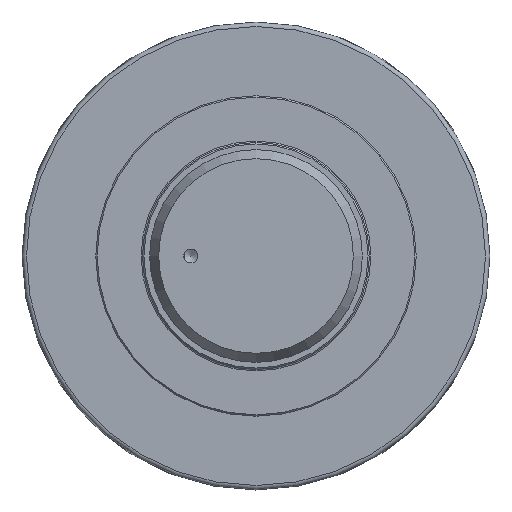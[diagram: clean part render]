
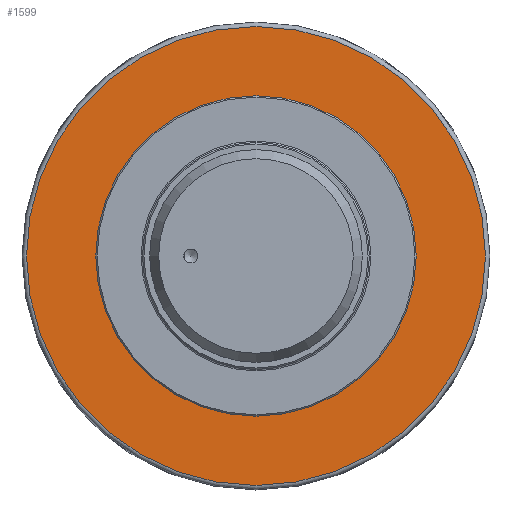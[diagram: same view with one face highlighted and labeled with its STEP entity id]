
A CAD part, left-side view. The second image highlights one B-rep face of the part: STEP entity #1599.
In plain terms, the highlighted planar face has unit normal (-1, 0, 0).
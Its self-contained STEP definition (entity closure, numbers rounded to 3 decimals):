
#66=FACE_BOUND('',#326,.T.);
#119=CIRCLE('',#1756,80.911);
#120=CIRCLE('',#1757,80.911);
#121=CIRCLE('',#1758,55.5);
#225=FACE_OUTER_BOUND('',#325,.T.);
#325=EDGE_LOOP('',(#1351,#1352));
#326=EDGE_LOOP('',(#1353));
#744=VERTEX_POINT('',#2668);
#745=VERTEX_POINT('',#2669);
#746=VERTEX_POINT('',#2672);
#958=EDGE_CURVE('',#744,#745,#119,.T.);
#959=EDGE_CURVE('',#745,#744,#120,.T.);
#960=EDGE_CURVE('',#746,#746,#121,.T.);
#1351=ORIENTED_EDGE('',*,*,#958,.F.);
#1352=ORIENTED_EDGE('',*,*,#959,.F.);
#1353=ORIENTED_EDGE('',*,*,#960,.F.);
#1530=PLANE('',#1755);
#1599=ADVANCED_FACE('',(#225,#66),#1530,.T.);
#1755=AXIS2_PLACEMENT_3D('',#2667,#2169,#2170);
#1756=AXIS2_PLACEMENT_3D('',#2670,#2171,#2172);
#1757=AXIS2_PLACEMENT_3D('',#2671,#2173,#2174);
#1758=AXIS2_PLACEMENT_3D('',#2673,#2175,#2176);
#2169=DIRECTION('center_axis',(-1.,0.,0.));
#2170=DIRECTION('ref_axis',(0.,1.,0.));
#2171=DIRECTION('center_axis',(1.,0.,0.));
#2172=DIRECTION('ref_axis',(0.,0.,
1.));
#2173=DIRECTION('center_axis',(1.,0.,0.));
#2174=DIRECTION('ref_axis',(0.,0.,
1.));
#2175=DIRECTION('center_axis',(-1.,0.,0.));
#2176=DIRECTION('ref_axis',(0.,-1.,0.));
#2667=CARTESIAN_POINT('Origin',(-10.775,1.329,-72.397));
#2668=CARTESIAN_POINT('',(-10.775,1.329,-80.911));
#2669=CARTESIAN_POINT('',(-10.775,82.241,0.));
#2670=CARTESIAN_POINT('Origin',(-10.775,1.329,0.));
#2671=CARTESIAN_POINT('Origin',(-10.775,1.329,0.));
#2672=CARTESIAN_POINT('',(-10.775,56.829,0.));
#2673=CARTESIAN_POINT('Origin',(-10.775,1.329,0.));
